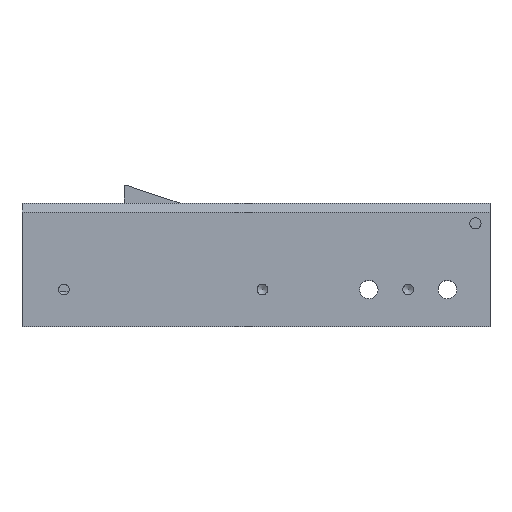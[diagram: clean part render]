
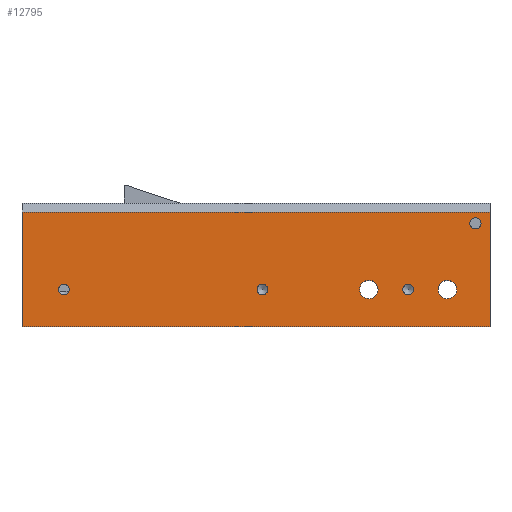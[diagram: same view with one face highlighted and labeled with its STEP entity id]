
A CAD part, top view. The second image highlights one B-rep face of the part: STEP entity #12795.
In plain terms, the highlighted planar face has unit normal (0, 0, 1).
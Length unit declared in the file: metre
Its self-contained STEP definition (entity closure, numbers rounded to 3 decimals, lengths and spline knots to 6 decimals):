
#385 = VECTOR ( 'NONE', #16169, 1. ) ;
#451 = CARTESIAN_POINT ( 'NONE',  ( 0.1133, 0., 0.020981 ) ) ;
#547 = AXIS2_PLACEMENT_3D ( 'NONE', #3103, #12297, #4435 ) ;
#671 = CARTESIAN_POINT ( 'NONE',  ( 0.0617, 0., 0.020981 ) ) ;
#674 = AXIS2_PLACEMENT_3D ( 'NONE', #13875, #6053, #15207 ) ;
#732 = ORIENTED_EDGE ( 'NONE', *, *, #11580, .T. ) ;
#1010 = VECTOR ( 'NONE', #16721, 1. ) ;
#1740 = CARTESIAN_POINT ( 'NONE',  ( -0.0455, 0.0345, 0.020981 ) ) ;
#1830 = FACE_OUTER_BOUND ( 'NONE', #6563, .T. ) ;
#2310 = DIRECTION ( 'NONE',  ( -1., 0., 0. ) ) ;
#2744 = AXIS2_PLACEMENT_3D ( 'NONE', #671, #10954, #2979 ) ;
#2979 = DIRECTION ( 'NONE',  ( 1., 0., 0. ) ) ;
#3022 = EDGE_LOOP ( 'NONE', ( #13908 ) ) ;
#3062 = CIRCLE ( 'NONE', #674, 0.0025 ) ;
#3103 = CARTESIAN_POINT ( 'NONE',  ( 0.1092, 0., 0.020981 ) ) ;
#3178 = VERTEX_POINT ( 'NONE', #12182 ) ;
#3392 = CIRCLE ( 'NONE', #13744, 0.0024 ) ;
#3532 = EDGE_LOOP ( 'NONE', ( #15221 ) ) ;
#3669 = DIRECTION ( 'NONE',  ( 1., 0., 0. ) ) ;
#3991 = EDGE_CURVE ( 'NONE', #3178, #3178, #3392, .T. ) ;
#4370 = CARTESIAN_POINT ( 'NONE',  ( -0.0268, 0., 0.020981 ) ) ;
#4374 = LINE ( 'NONE', #16448, #14415 ) ;
#4435 = DIRECTION ( 'NONE',  ( 1., 0., 0. ) ) ;
#4839 = ORIENTED_EDGE ( 'NONE', *, *, #8951, .F. ) ;
#4991 = CARTESIAN_POINT ( 'NONE',  ( 0.1442, 0., 0.020981 ) ) ;
#5347 = FACE_BOUND ( 'NONE', #15317, .T. ) ;
#5555 = AXIS2_PLACEMENT_3D ( 'NONE', #5756, #14907, #7082 ) ;
#5698 = CARTESIAN_POINT ( 'NONE',  ( 0.1483, 0., 0.020981 ) ) ;
#5719 = EDGE_LOOP ( 'NONE', ( #4839 ) ) ;
#5746 = ORIENTED_EDGE ( 'NONE', *, *, #8599, .T. ) ;
#5753 = FACE_BOUND ( 'NONE', #9441, .T. ) ;
#5756 = CARTESIAN_POINT ( 'NONE',  ( 0.1267, 0., 0.020981 ) ) ;
#5970 = AXIS2_PLACEMENT_3D ( 'NONE', #8840, #10166, #2310 ) ;
#6053 = DIRECTION ( 'NONE',  ( 0., 0., 1. ) ) ;
#6067 = EDGE_CURVE ( 'NONE', #16534, #10227, #4374, .T. ) ;
#6277 = CARTESIAN_POINT ( 'NONE',  ( -0.0455, -0.0165, 0.020981 ) ) ;
#6563 = EDGE_LOOP ( 'NONE', ( #732, #5746, #8139, #16390 ) ) ;
#6683 = DIRECTION ( 'NONE',  ( 1., 0., 0. ) ) ;
#6789 = VERTEX_POINT ( 'NONE', #16862 ) ;
#6805 = EDGE_CURVE ( 'NONE', #15477, #15477, #10515, .T. ) ;
#6968 = DIRECTION ( 'NONE',  ( 0., 0., 1. ) ) ;
#7023 = CARTESIAN_POINT ( 'NONE',  ( 0.0641, 0., 0.020981 ) ) ;
#7062 = VERTEX_POINT ( 'NONE', #15738 ) ;
#7082 = DIRECTION ( 'NONE',  ( 1., 0., 0. ) ) ;
#7542 = EDGE_CURVE ( 'NONE', #8511, #8511, #9663, .T. ) ;
#7832 = CARTESIAN_POINT ( 'NONE',  ( -0.0455, 0.0345, 0.020981 ) ) ;
#8139 = ORIENTED_EDGE ( 'NONE', *, *, #6067, .T. ) ;
#8372 = CIRCLE ( 'NONE', #5555, 0.0024 ) ;
#8511 = VERTEX_POINT ( 'NONE', #7023 ) ;
#8599 = EDGE_CURVE ( 'NONE', #7062, #16534, #15562, .T. ) ;
#8807 = FACE_BOUND ( 'NONE', #5719, .T. ) ;
#8822 = EDGE_CURVE ( 'NONE', #10227, #6789, #15351, .T. ) ;
#8840 = CARTESIAN_POINT ( 'NONE',  ( -0.0455, 0., 0.020981 ) ) ;
#8925 = LINE ( 'NONE', #13461, #12028 ) ;
#8951 = EDGE_CURVE ( 'NONE', #15085, #15085, #16757, .T. ) ;
#9034 = ORIENTED_EDGE ( 'NONE', *, *, #12713, .F. ) ;
#9441 = EDGE_LOOP ( 'NONE', ( #12523 ) ) ;
#9638 = FACE_BOUND ( 'NONE', #3532, .T. ) ;
#9663 = CIRCLE ( 'NONE', #2744, 0.0024 ) ;
#10166 = DIRECTION ( 'NONE',  ( 0., 0., -1. ) ) ;
#10227 = VERTEX_POINT ( 'NONE', #15841 ) ;
#10380 = VERTEX_POINT ( 'NONE', #11021 ) ;
#10515 = CIRCLE ( 'NONE', #16701, 0.0041 ) ;
#10954 = DIRECTION ( 'NONE',  ( 0., 0., 1. ) ) ;
#11021 = CARTESIAN_POINT ( 'NONE',  ( 0.1592, 0.0295, 0.020981 ) ) ;
#11580 = EDGE_CURVE ( 'NONE', #6789, #7062, #8925, .T. ) ;
#12028 = VECTOR ( 'NONE', #14789, 1. ) ;
#12144 = ORIENTED_EDGE ( 'NONE', *, *, #14249, .F. ) ;
#12182 = CARTESIAN_POINT ( 'NONE',  ( -0.0244, 0., 0.020981 ) ) ;
#12297 = DIRECTION ( 'NONE',  ( 0., 0., 1. ) ) ;
#12313 = FACE_BOUND ( 'NONE', #13976, .T. ) ;
#12523 = ORIENTED_EDGE ( 'NONE', *, *, #7542, .F. ) ;
#12713 = EDGE_CURVE ( 'NONE', #10380, #10380, #3062, .T. ) ;
#12795 = ADVANCED_FACE ( 'NONE', ( #12313, #5753, #9638, #15761, #8807, #5347, #1830 ), #16663, .F. ) ;
#12831 = DIRECTION ( 'NONE',  ( 0., 0., 1. ) ) ;
#13461 = CARTESIAN_POINT ( 'NONE',  ( 0.1632, -0.0165, 0.020981 ) ) ;
#13744 = AXIS2_PLACEMENT_3D ( 'NONE', #4370, #6968, #6683 ) ;
#13875 = CARTESIAN_POINT ( 'NONE',  ( 0.1567, 0.0295, 0.020981 ) ) ;
#13908 = ORIENTED_EDGE ( 'NONE', *, *, #6805, .F. ) ;
#13976 = EDGE_LOOP ( 'NONE', ( #12144 ) ) ;
#14249 = EDGE_CURVE ( 'NONE', #16484, #16484, #8372, .T. ) ;
#14415 = VECTOR ( 'NONE', #15171, 1. ) ;
#14789 = DIRECTION ( 'NONE',  ( 0., 1., 0. ) ) ;
#14907 = DIRECTION ( 'NONE',  ( 0., 0., 1. ) ) ;
#15085 = VERTEX_POINT ( 'NONE', #451 ) ;
#15171 = DIRECTION ( 'NONE',  ( 0., -1., 0. ) ) ;
#15207 = DIRECTION ( 'NONE',  ( 1., 0., 0. ) ) ;
#15221 = ORIENTED_EDGE ( 'NONE', *, *, #3991, .F. ) ;
#15317 = EDGE_LOOP ( 'NONE', ( #9034 ) ) ;
#15351 = LINE ( 'NONE', #6277, #1010 ) ;
#15477 = VERTEX_POINT ( 'NONE', #5698 ) ;
#15562 = LINE ( 'NONE', #1740, #385 ) ;
#15738 = CARTESIAN_POINT ( 'NONE',  ( 0.1632, 0.0345, 0.020981 ) ) ;
#15761 = FACE_BOUND ( 'NONE', #3022, .T. ) ;
#15841 = CARTESIAN_POINT ( 'NONE',  ( -0.0455, -0.0165, 0.020981 ) ) ;
#16169 = DIRECTION ( 'NONE',  ( -1., 0., 0. ) ) ;
#16259 = CARTESIAN_POINT ( 'NONE',  ( 0.1291, 0., 0.020981 ) ) ;
#16390 = ORIENTED_EDGE ( 'NONE', *, *, #8822, .T. ) ;
#16448 = CARTESIAN_POINT ( 'NONE',  ( -0.0455, -0.0165, 0.020981 ) ) ;
#16484 = VERTEX_POINT ( 'NONE', #16259 ) ;
#16534 = VERTEX_POINT ( 'NONE', #7832 ) ;
#16663 = PLANE ( 'NONE',  #5970 ) ;
#16701 = AXIS2_PLACEMENT_3D ( 'NONE', #4991, #12831, #3669 ) ;
#16721 = DIRECTION ( 'NONE',  ( 1., 0., 0. ) ) ;
#16757 = CIRCLE ( 'NONE', #547, 0.0041 ) ;
#16862 = CARTESIAN_POINT ( 'NONE',  ( 0.1632, -0.0165, 0.020981 ) ) ;
